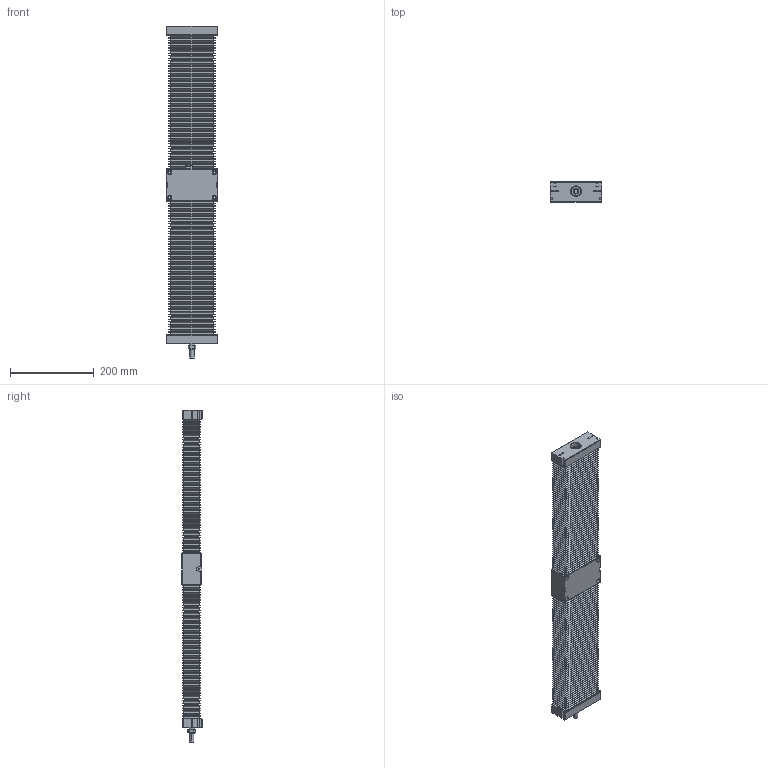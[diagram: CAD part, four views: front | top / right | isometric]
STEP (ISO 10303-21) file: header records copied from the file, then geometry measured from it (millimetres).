
FILE_DESCRIPTION (( 'STEP AP214' ), '1' );
FILE_NAME ('TKC1610B-400H0C-Ä£×é.step', '2025-08-25T08:38:16', ( '' ), ( '' ), 'SwSTEP 2.0', 'SolidWorks 2024', '' );
FILE_SCHEMA (( 'AUTOMOTIVE_DESIGN' ));
Length unit declared in the file: millimetre
Products named in the file (4): TKC16-400-03; TKC16-02; TKC1610B-400H0C-模组; TKC16-400-01
Assembly tree (4 placements, depth 2):
  TKC1610B-400H0C-模组
    TKC16-02
    TKC16-400-01
    TKC16-400-03  x2
Bounding box: 122 x 48 x 792.5 mm (x, y, z)
Volume: 2235463.8 mm3; surface area: 774427.1 mm2
Topology: 10 solids, 14 shells, 2080 faces, 4596 edges, 2583 vertices
Faces by surface type: plane 1592, cylinder 413, cone 36, torus 28, bspline 11
Entity records: 49067 total; most frequent: CARTESIAN_POINT 17846, ORIENTED_EDGE 6432, DIRECTION 6100, EDGE_CURVE 3216, VECTOR 2292, LINE 2292, AXIS2_PLACEMENT_3D 1904, VERTEX_POINT 1899
